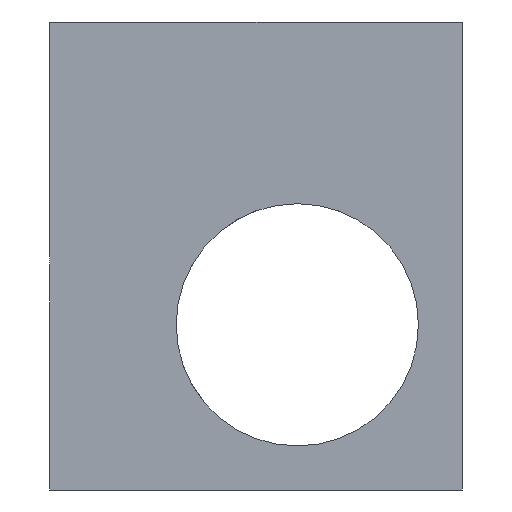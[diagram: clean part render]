
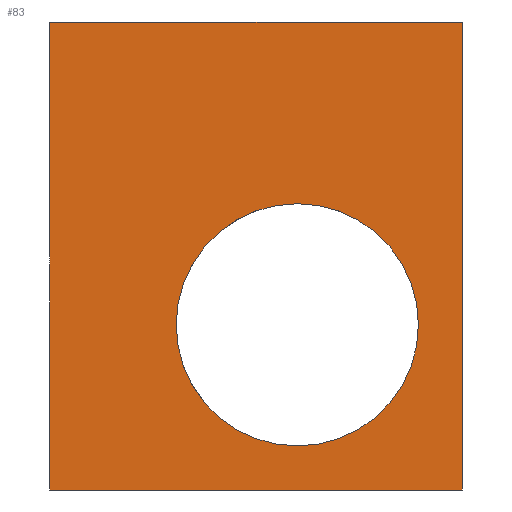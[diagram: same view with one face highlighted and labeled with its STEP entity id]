
A CAD part, left-side view. The second image highlights one B-rep face of the part: STEP entity #83.
In plain terms, the highlighted planar face has unit normal (-1, 0, 0).
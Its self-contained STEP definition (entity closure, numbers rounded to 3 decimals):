
#3 = EDGE_CURVE ( 'NONE', #1706, #45, #1504, .T. ) ;
#45 = VERTEX_POINT ( 'NONE', #322 ) ;
#65 = ORIENTED_EDGE ( 'NONE', *, *, #1257, .F. ) ;
#71 = ORIENTED_EDGE ( 'NONE', *, *, #1155, .T. ) ;
#83 = ADVANCED_FACE ( 'NONE', ( #1929, #163 ), #1282, .F. ) ;
#125 = ORIENTED_EDGE ( 'NONE', *, *, #507, .T. ) ;
#142 = VECTOR ( 'NONE', #575, 1000. ) ;
#163 = FACE_OUTER_BOUND ( 'NONE', #1375, .T. ) ;
#238 = VECTOR ( 'NONE', #1665, 1000. ) ;
#308 = AXIS2_PLACEMENT_3D ( 'NONE', #1651, #701, #1802 ) ;
#322 = CARTESIAN_POINT ( 'NONE',  ( -45., -1.5, -6.9 ) ) ;
#370 = CARTESIAN_POINT ( 'NONE',  ( -45., -1.5, 1.9 ) ) ;
#376 = VERTEX_POINT ( 'NONE', #1811 ) ;
#506 = CARTESIAN_POINT ( 'NONE',  ( -45., -1.5, -2.5 ) ) ;
#507 = EDGE_CURVE ( 'NONE', #952, #376, #1415, .T. ) ;
#575 = DIRECTION ( 'NONE',  ( 0., 0., 1. ) ) ;
#581 = CARTESIAN_POINT ( 'NONE',  ( -45., 7.5, 8.5 ) ) ;
#614 = CARTESIAN_POINT ( 'NONE',  ( -45., -7.5, -8.5 ) ) ;
#651 = ORIENTED_EDGE ( 'NONE', *, *, #3, .T. ) ;
#668 = VECTOR ( 'NONE', #1915, 1000. ) ;
#670 = LINE ( 'NONE', #1508, #238 ) ;
#701 = DIRECTION ( 'NONE',  ( 1., 0., 0. ) ) ;
#722 = CARTESIAN_POINT ( 'NONE',  ( -45., 7.5, 8.5 ) ) ;
#726 = EDGE_CURVE ( 'NONE', #970, #376, #1388, .T. ) ;
#908 = VERTEX_POINT ( 'NONE', #1904 ) ;
#926 = VECTOR ( 'NONE', #1688, 1000. ) ;
#951 = DIRECTION ( 'NONE',  ( 1., 0., 0. ) ) ;
#952 = VERTEX_POINT ( 'NONE', #614 ) ;
#970 = VERTEX_POINT ( 'NONE', #722 ) ;
#979 = DIRECTION ( 'NONE',  ( 0., 0., -1. ) ) ;
#1148 = LINE ( 'NONE', #2084, #668 ) ;
#1155 = EDGE_CURVE ( 'NONE', #45, #1706, #1995, .T. ) ;
#1231 = AXIS2_PLACEMENT_3D ( 'NONE', #506, #1750, #979 ) ;
#1257 = EDGE_CURVE ( 'NONE', #908, #970, #670, .T. ) ;
#1282 = PLANE ( 'NONE',  #1649 ) ;
#1375 = EDGE_LOOP ( 'NONE', ( #125, #1574, #65, #1842 ) ) ;
#1388 = LINE ( 'NONE', #581, #926 ) ;
#1415 = LINE ( 'NONE', #1529, #142 ) ;
#1504 = CIRCLE ( 'NONE', #1231, 4.4 ) ;
#1508 = CARTESIAN_POINT ( 'NONE',  ( -45., 7.5, -8.5 ) ) ;
#1529 = CARTESIAN_POINT ( 'NONE',  ( -45., -7.5, -8.5 ) ) ;
#1574 = ORIENTED_EDGE ( 'NONE', *, *, #726, .F. ) ;
#1649 = AXIS2_PLACEMENT_3D ( 'NONE', #2070, #951, #1901 ) ;
#1651 = CARTESIAN_POINT ( 'NONE',  ( -45., -1.5, -2.5 ) ) ;
#1665 = DIRECTION ( 'NONE',  ( 0., 0., 1. ) ) ;
#1688 = DIRECTION ( 'NONE',  ( 0., -1., 0. ) ) ;
#1706 = VERTEX_POINT ( 'NONE', #370 ) ;
#1750 = DIRECTION ( 'NONE',  ( 1., 0., 0. ) ) ;
#1769 = EDGE_LOOP ( 'NONE', ( #71, #651 ) ) ;
#1802 = DIRECTION ( 'NONE',  ( 0., 0., -1. ) ) ;
#1811 = CARTESIAN_POINT ( 'NONE',  ( -45., -7.5, 8.5 ) ) ;
#1842 = ORIENTED_EDGE ( 'NONE', *, *, #1880, .T. ) ;
#1880 = EDGE_CURVE ( 'NONE', #908, #952, #1148, .T. ) ;
#1901 = DIRECTION ( 'NONE',  ( 0., 0., -1. ) ) ;
#1904 = CARTESIAN_POINT ( 'NONE',  ( -45., 7.5, -8.5 ) ) ;
#1915 = DIRECTION ( 'NONE',  ( 0., -1., 0. ) ) ;
#1929 = FACE_BOUND ( 'NONE', #1769, .T. ) ;
#1995 = CIRCLE ( 'NONE', #308, 4.4 ) ;
#2070 = CARTESIAN_POINT ( 'NONE',  ( -45., 7.5, -8.5 ) ) ;
#2084 = CARTESIAN_POINT ( 'NONE',  ( -45., 7.5, -8.5 ) ) ;
